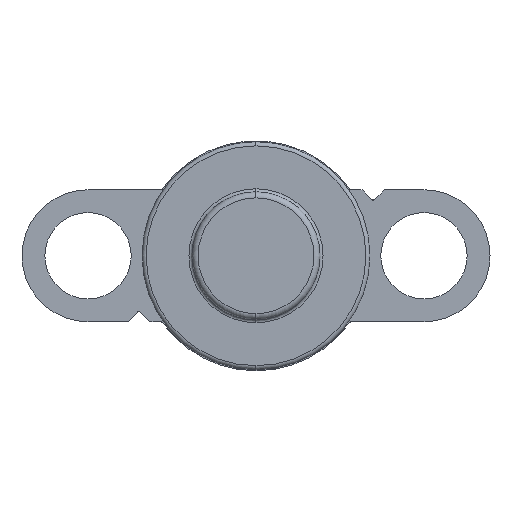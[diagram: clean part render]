
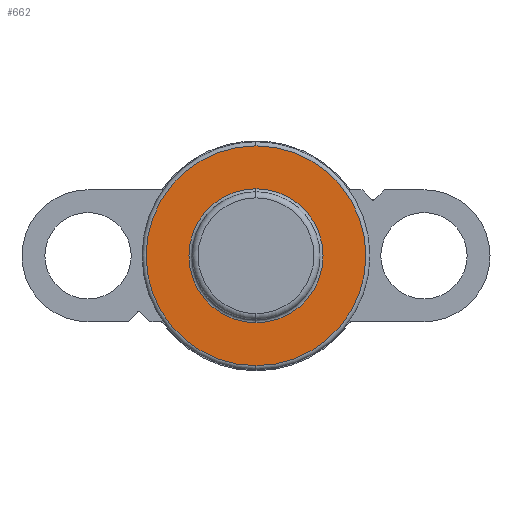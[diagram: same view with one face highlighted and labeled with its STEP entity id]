
A CAD part, front view. The second image highlights one B-rep face of the part: STEP entity #662.
In plain terms, the highlighted planar face has unit normal (0, -1, 0).
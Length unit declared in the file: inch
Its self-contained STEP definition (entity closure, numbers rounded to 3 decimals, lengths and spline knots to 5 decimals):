
#17 = CARTESIAN_POINT ( 'NONE',  ( 0., 0., 0. ) ) ;
#28 = CARTESIAN_POINT ( 'NONE',  ( 0., 0., -0.32996 ) ) ;
#61 = DIRECTION ( 'NONE',  ( 0., 0., 1. ) ) ;
#146 = ORIENTED_EDGE ( 'NONE', *, *, #1594, .T. ) ;
#170 = CIRCLE ( 'NONE', #619, 0.32996 ) ;
#239 = AXIS2_PLACEMENT_3D ( 'NONE', #1106, #1653, #1823 ) ;
#248 = EDGE_CURVE ( 'NONE', #604, #539, #170, .T. ) ;
#252 = CARTESIAN_POINT ( 'NONE',  ( -0.56102, 0., 0. ) ) ;
#280 = FACE_BOUND ( 'NONE', #1024, .T. ) ;
#305 = CIRCLE ( 'NONE', #239, 0.32996 ) ;
#331 = DIRECTION ( 'NONE',  ( 0., -1., 0. ) ) ;
#365 = CIRCLE ( 'NONE', #866, 0.54102 ) ;
#426 = DIRECTION ( 'NONE',  ( 0., 1., 0. ) ) ;
#488 = DIRECTION ( 'NONE',  ( 0., 0., 1. ) ) ;
#539 = VERTEX_POINT ( 'NONE', #28 ) ;
#570 = AXIS2_PLACEMENT_3D ( 'NONE', #252, #426, #61 ) ;
#585 = EDGE_CURVE ( 'NONE', #1744, #1119, #365, .T. ) ;
#604 = VERTEX_POINT ( 'NONE', #1370 ) ;
#619 = AXIS2_PLACEMENT_3D ( 'NONE', #943, #1066, #1098 ) ;
#662 = ADVANCED_FACE ( 'NONE', ( #280, #1880 ), #720, .F. ) ;
#720 = PLANE ( 'NONE',  #570 ) ;
#733 = CIRCLE ( 'NONE', #1374, 0.54102 ) ;
#829 = DIRECTION ( 'NONE',  ( 0., 0., 1. ) ) ;
#866 = AXIS2_PLACEMENT_3D ( 'NONE', #17, #331, #488 ) ;
#906 = CARTESIAN_POINT ( 'NONE',  ( 0., 0., 0.54102 ) ) ;
#938 = ORIENTED_EDGE ( 'NONE', *, *, #248, .T. ) ;
#943 = CARTESIAN_POINT ( 'NONE',  ( 0., 0., 0. ) ) ;
#1024 = EDGE_LOOP ( 'NONE', ( #938, #1338 ) ) ;
#1066 = DIRECTION ( 'NONE',  ( 0., 1., 0. ) ) ;
#1098 = DIRECTION ( 'NONE',  ( 0., 0., 1. ) ) ;
#1106 = CARTESIAN_POINT ( 'NONE',  ( 0., 0., 0. ) ) ;
#1112 = DIRECTION ( 'NONE',  ( 0., -1., 0. ) ) ;
#1119 = VERTEX_POINT ( 'NONE', #1702 ) ;
#1288 = EDGE_LOOP ( 'NONE', ( #1791, #146 ) ) ;
#1338 = ORIENTED_EDGE ( 'NONE', *, *, #1798, .T. ) ;
#1370 = CARTESIAN_POINT ( 'NONE',  ( 0., 0., 0.32996 ) ) ;
#1374 = AXIS2_PLACEMENT_3D ( 'NONE', #1400, #1112, #829 ) ;
#1400 = CARTESIAN_POINT ( 'NONE',  ( 0., 0., 0. ) ) ;
#1594 = EDGE_CURVE ( 'NONE', #1119, #1744, #733, .T. ) ;
#1653 = DIRECTION ( 'NONE',  ( 0., 1., 0. ) ) ;
#1702 = CARTESIAN_POINT ( 'NONE',  ( 0., 0., -0.54102 ) ) ;
#1744 = VERTEX_POINT ( 'NONE', #906 ) ;
#1791 = ORIENTED_EDGE ( 'NONE', *, *, #585, .T. ) ;
#1798 = EDGE_CURVE ( 'NONE', #539, #604, #305, .T. ) ;
#1823 = DIRECTION ( 'NONE',  ( 0., 0., 1. ) ) ;
#1880 = FACE_OUTER_BOUND ( 'NONE', #1288, .T. ) ;
